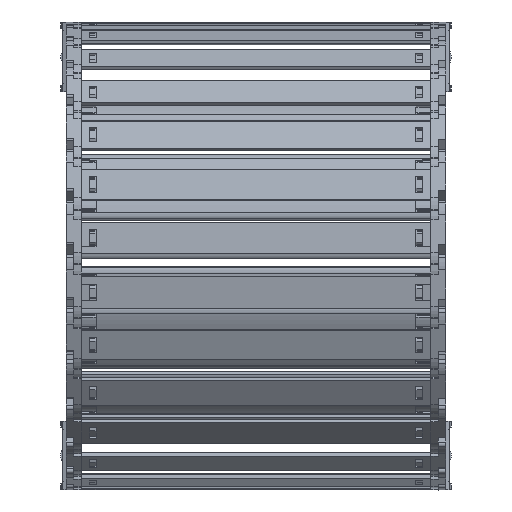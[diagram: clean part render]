
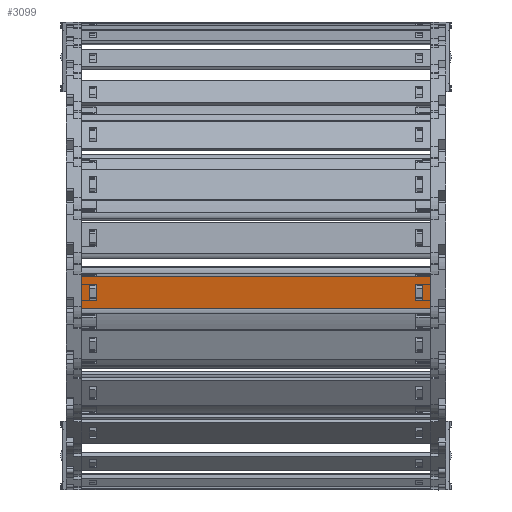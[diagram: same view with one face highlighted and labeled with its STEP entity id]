
A CAD part, top view. The second image highlights one B-rep face of the part: STEP entity #3099.
In plain terms, the highlighted planar face has unit normal (0, -0.156, 0.988) as drawn and (0, 1, 0) by its records, which use the part's own axes.
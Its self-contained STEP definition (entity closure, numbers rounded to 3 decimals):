
#2519=DIRECTION('',(0.,0.,1.));
#2520=VECTOR('',#2519,15.8);
#2521=CARTESIAN_POINT('',(161.24,1.5,-7.9));
#2522=LINE('',#2521,#2520);
#2523=DIRECTION('',(-1.,0.,0.));
#2524=VECTOR('',#2523,176.);
#2525=CARTESIAN_POINT('',(161.24,1.5,7.9));
#2526=LINE('',#2525,#2524);
#2527=DIRECTION('',(0.,0.,-1.));
#2528=VECTOR('',#2527,15.8);
#2529=CARTESIAN_POINT('',(-14.76,1.5,7.9));
#2530=LINE('',#2529,#2528);
#2531=DIRECTION('',(1.,0.,0.));
#2532=VECTOR('',#2531,3.648);
#2533=CARTESIAN_POINT('',(153.622,1.5,4.075));
#2534=LINE('',#2533,#2532);
#2535=DIRECTION('',(0.,0.,-1.));
#2536=VECTOR('',#2535,8.15);
#2537=CARTESIAN_POINT('',(157.27,1.5,4.075));
#2538=LINE('',#2537,#2536);
#2539=DIRECTION('',(-1.,0.,0.));
#2540=VECTOR('',#2539,3.648);
#2541=CARTESIAN_POINT('',(157.27,1.5,-4.075));
#2542=LINE('',#2541,#2540);
#2543=DIRECTION('',(0.,0.,-1.));
#2544=VECTOR('',#2543,8.15);
#2545=CARTESIAN_POINT('',(-7.142,1.5,4.075));
#2546=LINE('',#2545,#2544);
#2547=DIRECTION('',(-1.,0.,0.));
#2548=VECTOR('',#2547,3.648);
#2549=CARTESIAN_POINT('',(-7.142,1.5,-4.075));
#2550=LINE('',#2549,#2548);
#2551=DIRECTION('',(0.,0.,1.));
#2552=VECTOR('',#2551,8.15);
#2553=CARTESIAN_POINT('',(-10.79,1.5,-4.075));
#2554=LINE('',#2553,#2552);
#2555=DIRECTION('',(1.,0.,0.));
#2556=VECTOR('',#2555,3.648);
#2557=CARTESIAN_POINT('',(-10.79,1.5,4.075));
#2558=LINE('',#2557,#2556);
#2563=DIRECTION('',(-1.,0.,0.));
#2564=VECTOR('',#2563,176.);
#2565=CARTESIAN_POINT('',(161.24,1.5,-7.9));
#2566=LINE('',#2565,#2564);
#2684=DIRECTION('',(0.,0.,-1.));
#2685=VECTOR('',#2684,8.15);
#2686=CARTESIAN_POINT('',(153.622,1.5,4.075));
#2687=LINE('',#2686,#2685);
#2869=CARTESIAN_POINT('',(157.27,1.5,4.075));
#2870=VERTEX_POINT('',#2869);
#2871=CARTESIAN_POINT('',(153.622,1.5,4.075));
#2872=VERTEX_POINT('',#2871);
#2913=CARTESIAN_POINT('',(153.622,1.5,-4.075));
#2914=VERTEX_POINT('',#2913);
#2915=CARTESIAN_POINT('',(157.27,1.5,-4.075));
#2916=VERTEX_POINT('',#2915);
#2917=CARTESIAN_POINT('',(161.24,1.5,7.9));
#2919=VERTEX_POINT('',#2917);
#2921=CARTESIAN_POINT('',(161.24,1.5,-7.9));
#2922=VERTEX_POINT('',#2921);
#2945=CARTESIAN_POINT('',(-7.142,1.5,4.075));
#2946=CARTESIAN_POINT('',(-7.142,1.5,-4.075));
#2947=VERTEX_POINT('',#2945);
#2948=VERTEX_POINT('',#2946);
#2949=CARTESIAN_POINT('',(-10.79,1.5,-4.075));
#2950=VERTEX_POINT('',#2949);
#2951=CARTESIAN_POINT('',(-10.79,1.5,4.075));
#2952=VERTEX_POINT('',#2951);
#2953=CARTESIAN_POINT('',(-14.76,1.5,7.9));
#2954=VERTEX_POINT('',#2953);
#2957=CARTESIAN_POINT('',(-14.76,1.5,-7.9));
#2958=VERTEX_POINT('',#2957);
#3068=CARTESIAN_POINT('',(192.98,1.5,10.061));
#3069=DIRECTION('',(0.,-1.,0.));
#3070=DIRECTION('',(0.,0.,-1.));
#3071=AXIS2_PLACEMENT_3D('',#3068,#3069,#3070);
#3072=PLANE('',#3071);
#3073=ORIENTED_EDGE('',*,*,#3007,.T.);
#3074=ORIENTED_EDGE('',*,*,#3033,.T.);
#3075=ORIENTED_EDGE('',*,*,#3046,.T.);
#3077=ORIENTED_EDGE('',*,*,#3076,.F.);
#3078=EDGE_LOOP('',(#3073,#3074,#3075,#3077));
#3079=FACE_OUTER_BOUND('',#3078,.F.);
#3081=ORIENTED_EDGE('',*,*,#3080,.F.);
#3082=ORIENTED_EDGE('',*,*,#2970,.T.);
#3084=ORIENTED_EDGE('',*,*,#3083,.T.);
#3086=ORIENTED_EDGE('',*,*,#3085,.T.);
#3087=EDGE_LOOP('',(#3081,#3082,#3084,#3086));
#3088=FACE_BOUND('',#3087,.F.);
#3090=ORIENTED_EDGE('',*,*,#3089,.T.);
#3092=ORIENTED_EDGE('',*,*,#3091,.T.);
#3094=ORIENTED_EDGE('',*,*,#3093,.T.);
#3096=ORIENTED_EDGE('',*,*,#3095,.T.);
#3097=EDGE_LOOP('',(#3090,#3092,#3094,#3096));
#3098=FACE_BOUND('',#3097,.F.);
#3099=ADVANCED_FACE('',(#3079,#3088,#3098),#3072,.F.);
#2970=EDGE_CURVE('',#2872,#2870,#2534,.T.);
#3007=EDGE_CURVE('',#2922,#2919,#2522,.T.);
#3033=EDGE_CURVE('',#2919,#2954,#2526,.T.);
#3046=EDGE_CURVE('',#2954,#2958,#2530,.T.);
#3076=EDGE_CURVE('',#2922,#2958,#2566,.T.);
#3080=EDGE_CURVE('',#2872,#2914,#2687,.T.);
#3083=EDGE_CURVE('',#2870,#2916,#2538,.T.);
#3085=EDGE_CURVE('',#2916,#2914,#2542,.T.);
#3089=EDGE_CURVE('',#2947,#2948,#2546,.T.);
#3091=EDGE_CURVE('',#2948,#2950,#2550,.T.);
#3093=EDGE_CURVE('',#2950,#2952,#2554,.T.);
#3095=EDGE_CURVE('',#2952,#2947,#2558,.T.);
